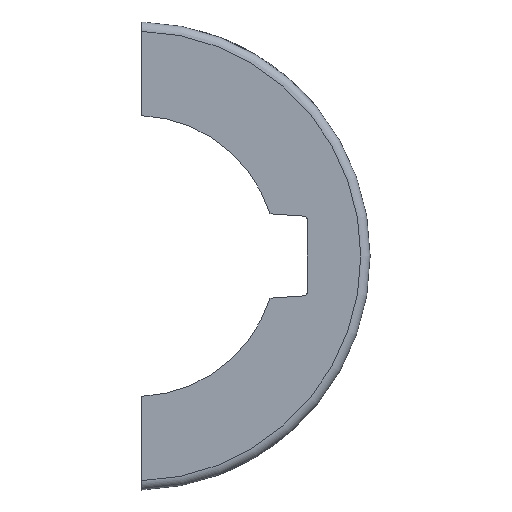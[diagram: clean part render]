
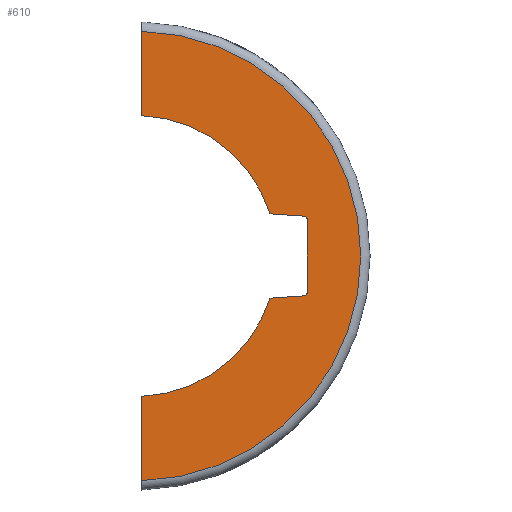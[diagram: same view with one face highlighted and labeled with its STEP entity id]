
A CAD part, left-side view. The second image highlights one B-rep face of the part: STEP entity #610.
In plain terms, the highlighted planar face has unit normal (-1, 0, 0).
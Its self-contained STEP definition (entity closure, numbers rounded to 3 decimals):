
#1=CARTESIAN_POINT('',(-8.168,-18.298,-3.954));
#2=DIRECTION('',(1.,0.,0.));
#3=DIRECTION('',(0.,-1.,0.));
#4=AXIS2_PLACEMENT_3D('',#1,#2,#3);
#6=DIRECTION('',(0.,0.,-1.));
#7=VECTOR('',#6,7.908);
#8=CARTESIAN_POINT('',(-8.168,-18.684,3.954));
#9=LINE('',#8,#7);
#10=CARTESIAN_POINT('',(-8.168,-18.298,3.954));
#11=DIRECTION('',(1.,0.,0.));
#12=DIRECTION('',(0.,-0.07,0.998));
#13=AXIS2_PLACEMENT_3D('',#10,#11,#12);
#15=DIRECTION('',(0.,-0.998,-0.07));
#16=VECTOR('',#15,3.726);
#17=CARTESIAN_POINT('',(-8.168,-14.608,4.599));
#18=LINE('',#17,#16);
#19=CARTESIAN_POINT('',(-8.168,0.,0.));
#20=DIRECTION('',(1.,0.,0.));
#21=DIRECTION('',(0.,-0.042,0.999));
#22=AXIS2_PLACEMENT_3D('',#19,#20,#21);
#24=DIRECTION('',(0.,0.,1.));
#25=VECTOR('',#24,9.194);
#26=CARTESIAN_POINT('',(-8.168,-0.638,15.302));
#27=LINE('',#26,#25);
#28=DIRECTION('',(0.,0.,1.));
#29=VECTOR('',#28,9.194);
#30=CARTESIAN_POINT('',(-8.168,-0.638,-24.496));
#31=LINE('',#30,#29);
#32=CARTESIAN_POINT('',(-8.168,0.,0.));
#33=DIRECTION('',(1.,0.,0.));
#34=DIRECTION('',(0.,-0.954,-0.3));
#35=AXIS2_PLACEMENT_3D('',#32,#33,#34);
#37=DIRECTION('',(0.,0.998,-0.07));
#38=VECTOR('',#37,3.726);
#39=CARTESIAN_POINT('',(-8.168,-18.325,-4.339));
#40=LINE('',#39,#38);
#293=CARTESIAN_POINT('',(-8.168,0.,0.));
#294=DIRECTION('',(-1.,0.,0.));
#295=DIRECTION('',(0.,-0.026,-1.));
#296=AXIS2_PLACEMENT_3D('',#293,#294,#295);
#475=CARTESIAN_POINT('',(-8.168,-0.638,-24.496));
#476=CARTESIAN_POINT('',(-8.168,-0.638,24.496));
#477=VERTEX_POINT('',#475);
#478=VERTEX_POINT('',#476);
#531=CARTESIAN_POINT('',(-8.168,-0.638,15.302));
#533=VERTEX_POINT('',#531);
#535=CARTESIAN_POINT('',(-8.168,-0.638,-15.302));
#537=VERTEX_POINT('',#535);
#555=CARTESIAN_POINT('',(-8.168,-18.684,-3.954));
#556=CARTESIAN_POINT('',(-8.168,-18.325,-4.339));
#557=VERTEX_POINT('',#555);
#558=VERTEX_POINT('',#556);
#559=CARTESIAN_POINT('',(-8.168,-14.608,-4.599));
#560=VERTEX_POINT('',#559);
#561=CARTESIAN_POINT('',(-8.168,-14.608,4.599));
#562=CARTESIAN_POINT('',(-8.168,-18.325,4.339));
#563=VERTEX_POINT('',#561);
#564=VERTEX_POINT('',#562);
#565=CARTESIAN_POINT('',(-8.168,-18.684,3.954));
#566=VERTEX_POINT('',#565);
#583=CARTESIAN_POINT('',(-8.168,0.,0.));
#584=DIRECTION('',(1.,0.,0.));
#585=DIRECTION('',(0.,0.,1.));
#586=AXIS2_PLACEMENT_3D('',#583,#584,#585);
#587=PLANE('',#586);
#589=ORIENTED_EDGE('',*,*,#588,.F.);
#591=ORIENTED_EDGE('',*,*,#590,.F.);
#593=ORIENTED_EDGE('',*,*,#592,.F.);
#595=ORIENTED_EDGE('',*,*,#594,.F.);
#597=ORIENTED_EDGE('',*,*,#596,.F.);
#599=ORIENTED_EDGE('',*,*,#598,.T.);
#601=ORIENTED_EDGE('',*,*,#600,.F.);
#603=ORIENTED_EDGE('',*,*,#602,.T.);
#605=ORIENTED_EDGE('',*,*,#604,.F.);
#607=ORIENTED_EDGE('',*,*,#606,.F.);
#608=EDGE_LOOP('',(#589,#591,#593,#595,#597,#599,#601,#603,#605,#607));
#609=FACE_OUTER_BOUND('',#608,.F.);
#610=ADVANCED_FACE('',(#609),#587,.F.);
#5=CIRCLE('',#4,0.386);
#14=CIRCLE('',#13,0.386);
#23=CIRCLE('',#22,15.315);
#36=CIRCLE('',#35,15.315);
#297=CIRCLE('',#296,24.504);
#588=EDGE_CURVE('',#557,#558,#5,.T.);
#590=EDGE_CURVE('',#566,#557,#9,.T.);
#592=EDGE_CURVE('',#564,#566,#14,.T.);
#594=EDGE_CURVE('',#563,#564,#18,.T.);
#596=EDGE_CURVE('',#533,#563,#23,.T.);
#598=EDGE_CURVE('',#533,#478,#27,.T.);
#600=EDGE_CURVE('',#477,#478,#297,.T.);
#602=EDGE_CURVE('',#477,#537,#31,.T.);
#604=EDGE_CURVE('',#560,#537,#36,.T.);
#606=EDGE_CURVE('',#558,#560,#40,.T.);
